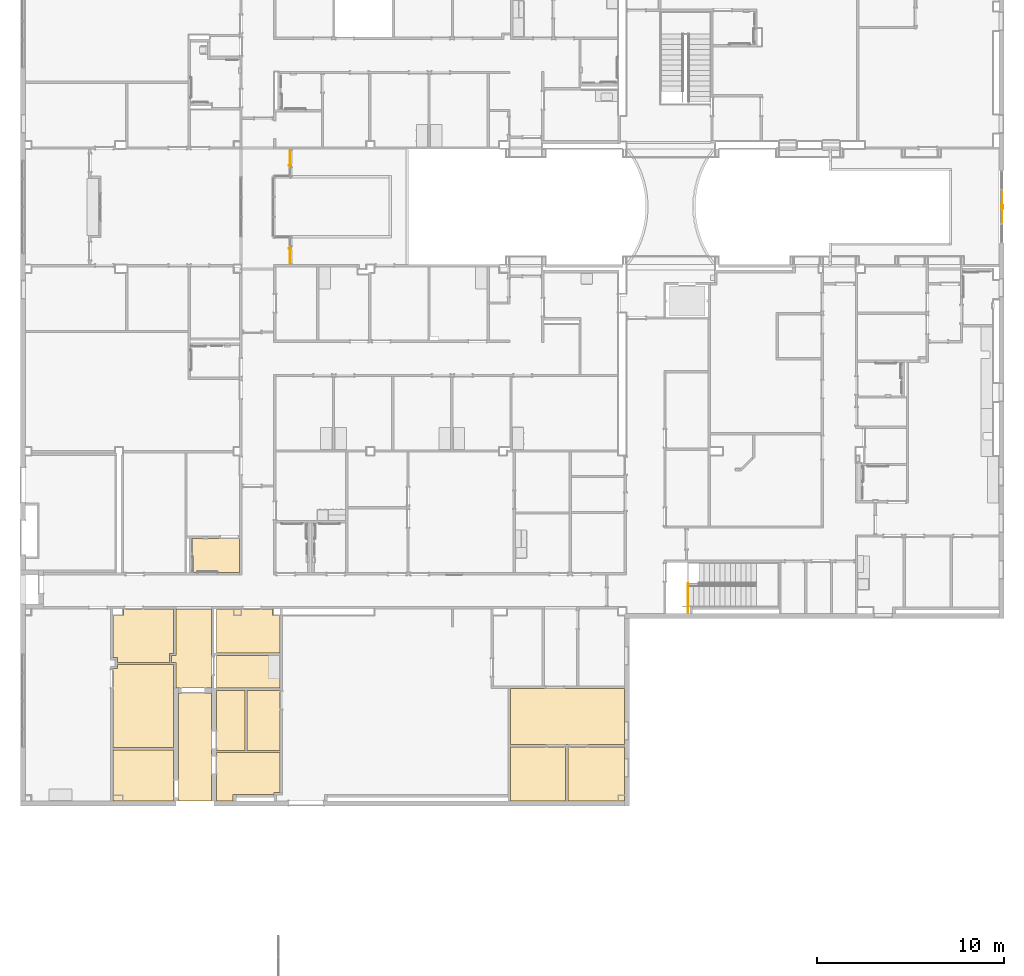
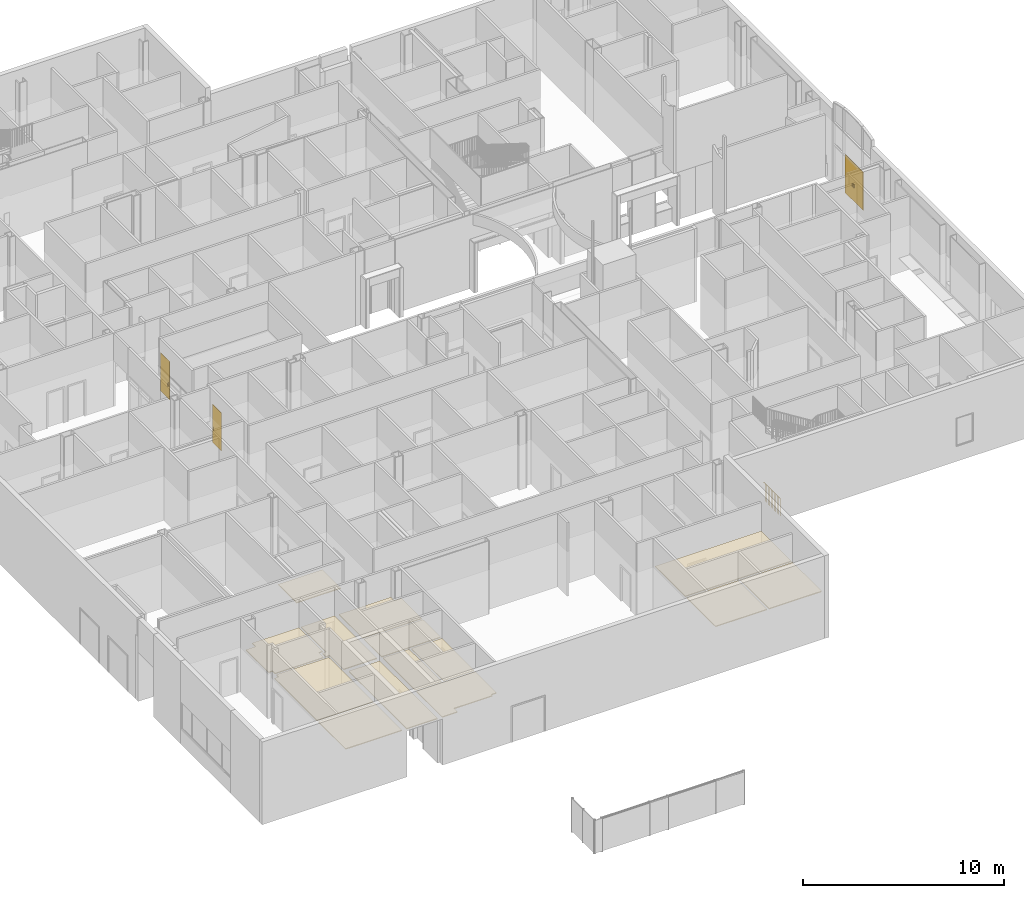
# One storey, part 48 of 87: 14 coverings, 6 doors, 1 railing, 3 elements without a shape of their own.
"""IFC2X3 building model written with IfcOpenShell, lengths in metres."""

import ifcopenshell
import ifcopenshell.guid

model = None  # the IFC model being written
_history = None  # IfcOwnerHistory: only IFC2X3 demands one
_inside = {}  # id of a spatial element -> (the spatial element, [elements in it])
_under = {}  # id of a project, library or spatial element -> (it, [spatial elements below it])
_declared = {}  # id of a project -> (the project, [libraries it declares])
_typed = {}  # id of a type object -> (the type object, [elements of that type])
_made_of = {}  # id of a material, layer set ... -> (it, [elements and type objects made of it])


def new_model(schema):
    """Start an empty IFC model of exactly this schema.

    Asked for "IFC4X3", IfcOpenShell would pick the latest addendum, in which some entities
    have other attributes; the version numbers below select the first issue.
    IFC2X3 requires an IfcOwnerHistory on every rooted entity: one is made here for all.
    """
    global model, _history
    if schema == "IFC4X3":
        model = ifcopenshell.file(schema_version=(4, 3, 0, 0))
    else:
        model = ifcopenshell.file(schema=schema)
    _inside.clear()
    _under.clear()
    _declared.clear()
    _typed.clear()
    _made_of.clear()
    _history = None
    if model.schema == "IFC2X3":
        org = make("IfcOrganization", Name="unknown")
        user = make(
            "IfcPersonAndOrganization",
            ThePerson=make("IfcPerson", FamilyName="unknown"),
            TheOrganization=org,
        )
        app = make(
            "IfcApplication",
            ApplicationDeveloper=org,
            Version="unknown",
            ApplicationFullName="unknown",
            ApplicationIdentifier="unknown",
        )
        _history = make(
            "IfcOwnerHistory",
            OwningUser=user,
            OwningApplication=app,
            ChangeAction="ADDED",
            CreationDate=0,
        )
    return model


def make(cls, **values):
    """One entity of the class cls with the attributes given. An attribute that is None is left unset."""
    return model.create_entity(
        cls, **{name: value for name, value in values.items() if value is not None}
    )


def entity(cls, *values):
    """Any entity or typed value of the class cls, its attributes in the order of the schema. None: left unset."""
    e = model.create_entity(cls)
    for i, value in enumerate(values):
        if value is not None:
            e[i] = value
    return e


def rooted(cls, **values):
    """An entity with a GlobalId (a new one), such as an element, a storey or a relation."""
    return make(cls, GlobalId=ifcopenshell.guid.new(), OwnerHistory=_history, **values)


def si_unit(unit_type, name, prefix=None):
    """IfcSIUnit, for example si_unit("LENGTHUNIT", "METRE", prefix="MILLI")."""
    return make("IfcSIUnit", UnitType=unit_type, Prefix=prefix, Name=name)


def converted_unit(unit_type, name, factor, base, dimensions=None, offset=None):
    """IfcConversionBasedUnit, such as the inch: factor (a typed value) times the base unit."""
    return make(
        "IfcConversionBasedUnit"
        if offset is None
        else "IfcConversionBasedUnitWithOffset",
        ConversionOffset=offset,
        Dimensions=None
        if dimensions is None
        else entity("IfcDimensionalExponents", *dimensions),
        UnitType=unit_type,
        Name=name,
        ConversionFactor=make(
            "IfcMeasureWithUnit", ValueComponent=factor, UnitComponent=base
        ),
    )


def assignment(units):
    """IfcUnitAssignment: the units of a project."""
    return None if units is None else make("IfcUnitAssignment", Units=units)


def point(xyz):
    """IfcCartesianPoint."""
    return None if xyz is None else make("IfcCartesianPoint", Coordinates=xyz)


def direction(xyz):
    """IfcDirection."""
    return None if xyz is None else make("IfcDirection", DirectionRatios=xyz)


def frame(location, z_axis=None, x_axis=None):
    """IfcAxis2Placement3D, a coordinate frame: its origin and axes. An axis left out is left unset."""
    return make(
        "IfcAxis2Placement3D",
        Location=point(location),
        Axis=direction(z_axis),
        RefDirection=direction(x_axis),
    )


def frame_2d(location, x_axis=None):
    """IfcAxis2Placement2D, a coordinate frame in the plane: its origin and x axis."""
    return make(
        "IfcAxis2Placement2D", Location=point(location), RefDirection=direction(x_axis)
    )


def origin():
    """The frame at (0, 0, 0) with its axes left unset."""
    return frame((0.0, 0.0, 0.0))


def origin_2d_with_axis():
    """The frame at (0, 0) in the plane with the x axis (1, 0) written out."""
    return frame_2d((0.0, 0.0), x_axis=(1.0, 0.0))


def place(relative_to, where):
    """IfcLocalPlacement: puts the frame where relative to a parent placement (None: the world)."""
    return make(
        "IfcLocalPlacement", PlacementRelTo=relative_to, RelativePlacement=where
    )


def context(
    kind, dimensions, precision=None, world=None, true_north=None, identifier=None
):
    """IfcGeometricRepresentationContext, for example the 3D "Model" context."""
    return make(
        "IfcGeometricRepresentationContext",
        ContextIdentifier=identifier,
        ContextType=kind,
        CoordinateSpaceDimension=dimensions,
        Precision=precision,
        WorldCoordinateSystem=world,
        TrueNorth=true_north,
    )


def project(units=None, contexts=None):
    """IfcProject with its units and contexts."""
    return rooted(
        "IfcProject",
        Name="project",
        RepresentationContexts=contexts,
        UnitsInContext=assignment(units),
    )


def spatial(cls, under=None, at=None, **own):
    """A site, building, storey or space (cls), placed at a placement, below another one or the project."""
    s = rooted(cls, ObjectPlacement=at, **own)
    if under is not None:
        _under.setdefault(under.id(), (under, []))[1].append(s)
    return s


def profile(cls, at=None, kind="AREA", **sizes):
    """A parametric profile (cls). Its sizes go by their IFC names, for example OverallWidth=200.0."""
    return make(cls, ProfileType=kind, Position=at, **sizes)


def rectangle(**sizes):
    """IfcRectangleProfileDef."""
    return profile("IfcRectangleProfileDef", **sizes)


def circle(**sizes):
    """IfcCircleProfileDef."""
    return profile("IfcCircleProfileDef", **sizes)


def extrude(swept, where, along, depth):
    """IfcExtrudedAreaSolid: the profile swept, set in the frame where, extruded along a direction by depth."""
    return make(
        "IfcExtrudedAreaSolid",
        SweptArea=swept,
        Position=where,
        ExtrudedDirection=direction(along),
        Depth=depth,
    )


def faces_of(points, faces, orient=None, outer=None):
    """IfcFace entities. A face is a list of loops; a loop is a list of indices into points, from 0.

    orient and outer hold one flag for each loop. By default every Orientation is true, the
    first loop of a face is its IfcFaceOuterBound and the others are IfcFaceBound.
    """
    made = []
    for i, loops in enumerate(faces):
        bounds = []
        for j, loop in enumerate(loops):
            is_outer = j == 0 if outer is None else outer[i][j]
            bounds.append(
                make(
                    "IfcFaceOuterBound" if is_outer else "IfcFaceBound",
                    Bound=make("IfcPolyLoop", Polygon=[points[k] for k in loop]),
                    Orientation=True if orient is None else orient[i][j],
                )
            )
        made.append(make("IfcFace", Bounds=bounds))
    return made


def face_set(faces, orient=None, outer=None):
    """The faces of one IfcConnectedFaceSet. surface_model builds it on its shared points."""
    return ("IfcConnectedFaceSet", faces, orient, outer)


def surface_model(cls, points, shells):
    """IfcFaceBasedSurfaceModel or IfcShellBasedSurfaceModel (cls): surfaces that need not close."""
    shared = [point(p) for p in points]
    made = [make(c, CfsFaces=faces_of(shared, fs, o, b)) for c, fs, o, b in shells]
    if cls == "IfcFaceBasedSurfaceModel":
        return make(cls, FbsmFaces=made)
    return make(cls, SbsmBoundary=made)


def shape(context_of_items, identifier, shape_type, items):
    """IfcShapeRepresentation: the items that make up one representation, for example the "Body"."""
    return make(
        "IfcShapeRepresentation",
        ContextOfItems=context_of_items,
        RepresentationIdentifier=identifier,
        RepresentationType=shape_type,
        Items=items,
    )


def source(mapping_origin, context_of_items, identifier, shape_type, items):
    """IfcRepresentationMap: a shape defined once, which mapped items show again and again."""
    return make(
        "IfcRepresentationMap",
        MappingOrigin=mapping_origin,
        MappedRepresentation=shape(context_of_items, identifier, shape_type, items),
    )


def transform(
    local_origin,
    x_axis=None,
    y_axis=None,
    z_axis=None,
    scale=None,
    scale2=None,
    scale3=None,
    uniform=True,
):
    """IfcCartesianTransformationOperator3D, or its non-uniform kind. x_axis, y_axis, z_axis: its Axis1, 2, 3."""
    if uniform:
        return make(
            "IfcCartesianTransformationOperator3D",
            Axis1=direction(x_axis),
            Axis2=direction(y_axis),
            LocalOrigin=point(local_origin),
            Scale=scale,
            Axis3=direction(z_axis),
        )
    return make(
        "IfcCartesianTransformationOperator3DnonUniform",
        Axis1=direction(x_axis),
        Axis2=direction(y_axis),
        LocalOrigin=point(local_origin),
        Scale=scale,
        Axis3=direction(z_axis),
        Scale2=scale2,
        Scale3=scale3,
    )


def mapped(mapping_source, mapping_target):
    """IfcMappedItem: shows the shape of a source again, moved by a transform."""
    return make(
        "IfcMappedItem", MappingSource=mapping_source, MappingTarget=mapping_target
    )


def material(Name=None, Category=None):
    """IfcMaterial."""
    return make("IfcMaterial", Name=Name, Category=Category)


def layer(
    of_material, thickness, ventilated=None, Name=None, Category=None, Priority=None
):
    """IfcMaterialLayer: one layer of a wall or slab, of a material (None: an air gap)."""
    return make(
        "IfcMaterialLayer",
        Material=of_material,
        LayerThickness=thickness,
        IsVentilated=ventilated,
        Name=Name,
        Category=Category,
        Priority=Priority,
    )


def layer_set(layers, Name=None):
    """IfcMaterialLayerSet."""
    return make("IfcMaterialLayerSet", MaterialLayers=layers, LayerSetName=Name)


def layer_usage(for_layer_set, set_direction, sense, offset, extent=None):
    """IfcMaterialLayerSetUsage: how a layer set lies in its element."""
    return make(
        "IfcMaterialLayerSetUsage",
        ForLayerSet=for_layer_set,
        LayerSetDirection=set_direction,
        DirectionSense=sense,
        OffsetFromReferenceLine=offset,
        ReferenceExtent=extent,
    )


def made_of(thing, what):
    """Note that an element or type object is made of a material, layer set ...; save() writes the relation."""
    if what is not None:
        _made_of.setdefault(what.id(), (what, []))[1].append(thing)
    return thing


def type_object(cls, material=None, **own):
    """A type object (cls), such as IfcWallType, which elements share."""
    return made_of(rooted(cls, **own), material)


def type_shapes(of_type, sources):
    """Give a type object the sources (RepresentationMaps) that its elements show as mapped items."""
    of_type.RepresentationMaps = sources


def element(
    cls,
    number,
    at=None,
    inside=None,
    cuts=None,
    type_object=None,
    material=None,
    context=None,
    identifier="Body",
    shape_type=None,
    held_by="IfcProductDefinitionShape",
    body=None,
    shapes=None,
    **own,
):
    """One element of the class cls, such as IfcWall. Its Tag is "e" and its number.

    at: its placement. inside: the storey or other place that contains it. cuts: it is an
    opening in that element (IfcRelVoidsElement). A single representation is given by context,
    identifier, shape_type and body (its items); several are given by shapes. held_by: the class
    of the entity that holds the representations. save() writes the other relations.
    """
    e = rooted(cls, Tag="e%d" % number, ObjectPlacement=at, **own)
    if body is not None:
        shapes = [shape(context, identifier, shape_type, body)]
    if shapes is not None:
        e.Representation = make(held_by, Representations=shapes)
    if inside is not None:
        _inside.setdefault(inside.id(), (inside, []))[1].append(e)
    if cuts is not None:
        rooted(
            "IfcRelVoidsElement", RelatingBuildingElement=cuts, RelatedOpeningElement=e
        )
    if type_object is not None:
        _typed.setdefault(type_object.id(), (type_object, []))[1].append(e)
    return made_of(e, material)


def aggregate(whole, parts):
    """IfcRelAggregates: a whole, such as a stair, and the parts it consists of."""
    return rooted("IfcRelAggregates", RelatingObject=whole, RelatedObjects=parts)


def save(model, path):
    """Write the relations noted so far, then the file.

    IfcRelAggregates (storeys below a building ...), IfcRelContainedInSpatialStructure (elements
    in a storey), IfcRelDefinesByType, IfcRelAssociatesMaterial and IfcRelDeclares: one each for
    every whole, place, type object, material and project.
    """
    for whole, parts in _under.values():
        aggregate(whole, parts)
    for where, things in _inside.values():
        rooted(
            "IfcRelContainedInSpatialStructure",
            RelatedElements=things,
            RelatingStructure=where,
        )
    for kind, things in _typed.values():
        rooted("IfcRelDefinesByType", RelatedObjects=things, RelatingType=kind)
    for what, things in _made_of.values():
        rooted("IfcRelAssociatesMaterial", RelatedObjects=things, RelatingMaterial=what)
    for by, libraries in _declared.values():
        rooted("IfcRelDeclares", RelatingContext=by, RelatedDefinitions=libraries)
    model.write(path)


model = new_model("IFC2X3")

# Units and contexts
model_context = context("Model", 3, precision=1e-09, world=origin())
plan_context = context("Plan", 3, precision=1e-09, world=origin())
ifc_project = project(units=[si_unit("LENGTHUNIT", "METRE"), si_unit("AREAUNIT", "SQUARE_METRE"), si_unit("VOLUMEUNIT", "CUBIC_METRE"), converted_unit("PLANEANGLEUNIT", "DEGREE", entity("IfcRatioMeasure", 0.01745329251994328), si_unit("PLANEANGLEUNIT", "RADIAN"), dimensions=[0, 0, 0, 0, 0, 0, 0]), si_unit("TIMEUNIT", "SECOND")], contexts=[model_context, plan_context])

# Site, building, storey
site_placement = place(None, origin())
site = spatial("IfcSite", under=ifc_project, at=site_placement, Name="Default", CompositionType="ELEMENT")
building_placement = place(site_placement, origin())
building = spatial("IfcBuilding", under=site, at=building_placement, CompositionType="ELEMENT")
storey_placement = place(building_placement, origin())
storey = spatial("IfcBuildingStorey", under=building, at=storey_placement, Name="First Floor", CompositionType="ELEMENT", Elevation=-3.531500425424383e-13)

# Curtain wall, door
curtain_wall_1_placement = place(storey_placement, origin())
curtain_wall_1 = element("IfcCurtainWall", 1, at=curtain_wall_1_placement, inside=storey, Name="Curtain Wall:Storefront", ObjectType="Curtain Wall:Storefront")
door_style_1 = type_object("IfcDoorStyle", Name="M_Curtain Wall Dbl Glass", ConstructionType="NOTDEFINED", OperationType="DOUBLE_DOOR_SINGLE_SWING", ParameterTakesPrecedence=False, Sizeable=False)
shared_shape_1 = source(origin(), model_context, "Body", "SurfaceModel", [
    surface_model("IfcFaceBasedSurfaceModel", [(-0.001587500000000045, 0.03094999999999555, 2.325), (-0.9000000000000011, 0.03094999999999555, 2.325), (-0.9000000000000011, 0.03094999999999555, 0.0), (-0.001587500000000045, 0.03094999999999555, 0.0), (-0.001587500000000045, 0.04999999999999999, 2.325), (-0.9000000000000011, 0.04999999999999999, 2.325), (-0.9000000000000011, 0.04999999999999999, 0.0), (-0.001587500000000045, 0.04999999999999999, 0.0), (0.00158749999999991, 0.03094999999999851, 2.325), (0.001587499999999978, 0.03094999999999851, 0.0), (0.9000000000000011, 0.03094999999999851, 0.0), (0.9000000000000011, 0.03094999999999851, 2.325), (0.00158749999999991, 0.04999999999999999, 2.325), (0.00158749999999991, 0.04999999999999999, 0.0), (0.9000000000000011, 0.04999999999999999, 0.0), (0.9000000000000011, 0.04999999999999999, 2.325), (-0.05080000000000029, 0.1007999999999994, 1.066799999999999), (-0.05080000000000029, 0.04999999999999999, 1.066799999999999), (-0.05715000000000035, 0.04999999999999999, 1.066799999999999), (-0.05715000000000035, 0.09444999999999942, 1.066799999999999), (-0.09524999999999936, 0.09444999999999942, 1.066799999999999), (-0.09524999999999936, 0.1007999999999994, 1.066799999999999), (0.05080000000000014, 0.1008000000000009, 1.066799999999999), (0.0952499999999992, 0.1008000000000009, 1.066799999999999), (0.0952499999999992, 0.09445000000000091, 1.066799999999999), (0.05715000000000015, 0.09445000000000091, 1.066799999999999), (0.05715000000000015, 0.04999999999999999, 1.066799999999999), (0.05080000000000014, 0.04999999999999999, 1.066799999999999), (-0.05080000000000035, -0.01985000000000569, 1.066799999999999), (-0.09524999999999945, -0.01985000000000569, 1.066799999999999), (-0.09524999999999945, -0.01350000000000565, 1.066799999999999), (-0.05715000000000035, -0.01350000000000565, 1.066799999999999), (-0.05715000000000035, 0.03094999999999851, 1.066799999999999), (-0.05080000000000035, 0.03094999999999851, 1.066799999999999), (0.05079999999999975, -0.01985000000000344, 1.066799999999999), (0.05079999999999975, 0.03094999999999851, 1.066799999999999), (0.05714999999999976, 0.03094999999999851, 1.066799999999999), (0.05714999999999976, -0.0135000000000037, 1.066799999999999), (0.09524999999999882, -0.0135000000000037, 1.066799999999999), (0.09524999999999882, -0.01985000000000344, 1.066799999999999), (-0.05080000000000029, 0.1007999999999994, 0.8635999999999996), (-0.05080000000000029, 0.04999999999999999, 0.8635999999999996), (-0.05715000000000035, 0.04999999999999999, 0.8635999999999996), (-0.05715000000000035, 0.09444999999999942, 0.8635999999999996), (-0.09524999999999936, 0.09444999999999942, 0.8635999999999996), (-0.09524999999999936, 0.1007999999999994, 0.8635999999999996), (0.05080000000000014, 0.1008000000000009, 0.8635999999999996), (0.0952499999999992, 0.1008000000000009, 0.8635999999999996), (0.0952499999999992, 0.09445000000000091, 0.8635999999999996), (0.05715000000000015, 0.09445000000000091, 0.8635999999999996), (0.05715000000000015, 0.04999999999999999, 0.8635999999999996), (0.05080000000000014, 0.04999999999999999, 0.8635999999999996), (-0.05080000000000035, -0.01985000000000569, 0.8635999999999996), (-0.09524999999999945, -0.01985000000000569, 0.8635999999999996), (-0.09524999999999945, -0.01350000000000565, 0.8635999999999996), (-0.05715000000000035, -0.01350000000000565, 0.8635999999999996), (-0.05715000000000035, 0.03094999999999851, 0.8635999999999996), (-0.05080000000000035, 0.03094999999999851, 0.8635999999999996), (0.05079999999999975, -0.01985000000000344, 0.8635999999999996), (0.05079999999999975, 0.03094999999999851, 0.8635999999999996), (0.05714999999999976, 0.03094999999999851, 0.8635999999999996), (0.05714999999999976, -0.0135000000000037, 0.8635999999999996), (0.09524999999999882, -0.0135000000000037, 0.8635999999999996), (0.09524999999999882, -0.01985000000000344, 0.8635999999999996)], [face_set([[[0, 1, 2, 3]], [[4, 5, 6, 7]], [[1, 5, 4, 0]], [[2, 6, 5, 1]], [[3, 2, 6, 7]], [[0, 3, 7, 4]]]), face_set([[[8, 9, 10, 11]], [[12, 13, 14, 15]], [[9, 8, 12, 13]], [[10, 9, 13, 14]], [[11, 15, 14, 10]], [[8, 12, 15, 11]]]), face_set([[[16, 17, 18, 19, 20, 21]], [[22, 23, 24, 25, 26, 27]], [[28, 29, 30, 31, 32, 33]], [[34, 35, 36, 37, 38, 39]], [[40, 41, 42, 43, 44, 45]], [[46, 47, 48, 49, 50, 51]], [[52, 53, 54, 55, 56, 57]], [[58, 59, 60, 61, 62, 63]], [[21, 45, 40, 16]], [[20, 21, 45, 44]], [[19, 20, 44, 43]], [[18, 19, 43, 42]], [[17, 18, 42, 41]], [[16, 40, 41, 17]], [[27, 51, 46, 22]], [[26, 27, 51, 50]], [[25, 26, 50, 49]], [[24, 25, 49, 48]], [[23, 24, 48, 47]], [[22, 46, 47, 23]], [[33, 57, 52, 28]], [[32, 56, 57, 33]], [[31, 32, 56, 55]], [[30, 54, 55, 31]], [[29, 30, 54, 53]], [[28, 29, 53, 52]], [[39, 34, 58, 63]], [[38, 39, 63, 62]], [[37, 61, 62, 38]], [[36, 37, 61, 60]], [[35, 59, 60, 36]], [[34, 58, 59, 35]]])]),
])
type_shapes(door_style_1, [shared_shape_1])
door_1_placement = place(storey_placement, frame((0.2464999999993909, 31.69499999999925, 0.05000000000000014), z_axis=(0.0, 0.0, 1.0), x_axis=(0.0, -1.0, 0.0)))
door_1 = element("IfcDoor", 2, at=door_1_placement, type_object=door_style_1, Name="M_Curtain Wall Dbl Glass:M_Curtain Wall Dbl Glass:M_Curtain Wall Dbl Glass", ObjectType="M_Curtain Wall Dbl Glass", OverallHeight=2.326855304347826, OverallWidth=1.800000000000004, context=model_context, shape_type="MappedRepresentation", body=[
    mapped(shared_shape_1, transform((0.0, 0.0, 0.0), scale=1.0)),
])
aggregate(curtain_wall_1, [door_1])

# Door
door_2_placement = place(storey_placement, frame((0.2464999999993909, 31.69499999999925, 0.05000000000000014), z_axis=(0.0, 0.0, 1.0), x_axis=(0.0, -1.0, 0.0)))
element("IfcDoor", 3, at=door_2_placement, inside=storey, type_object=door_style_1, Name="M_Curtain Wall Dbl Glass:M_Curtain Wall Dbl Glass:M_Curtain Wall Dbl Glass", ObjectType="M_Curtain Wall Dbl Glass", OverallHeight=2.326855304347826, OverallWidth=1.800000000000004, context=model_context, shape_type="MappedRepresentation", body=[
    mapped(shared_shape_1, transform((0.0, 0.0, 0.0), scale=1.0)),
])

# Curtain wall, door
curtain_wall_2_placement = place(storey_placement, origin())
curtain_wall_2 = element("IfcCurtainWall", 4, at=curtain_wall_2_placement, inside=storey, Name="Curtain Wall:Storefront - Interior", ObjectType="Curtain Wall:Storefront - Interior")
door_style_2 = type_object("IfcDoorStyle", Name="M_Curtain Wall Sgl Glass", ConstructionType="NOTDEFINED", OperationType="SINGLE_SWING_LEFT", ParameterTakesPrecedence=False, Sizeable=False)
shared_shape_2 = source(origin(), model_context, "Body", "SweptSolid", [
    extrude(rectangle(XDim=0.02540000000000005, YDim=0.0508, at=origin_2d_with_axis()), frame((-0.361600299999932, -0.01290000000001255, 0.7619999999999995), z_axis=(0.0, 0.0, 1.0), x_axis=(-1.0, 0.0, 0.0)), (0.0, 0.0, 1.0), 0.2286000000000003),
    extrude(rectangle(XDim=0.02539999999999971, YDim=0.0508, at=origin_2d_with_axis()), frame((-0.3616002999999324, -0.07640000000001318, 0.762)), (0.0, 0.0, 1.0), 0.2286),
    extrude(rectangle(XDim=0.01270000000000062, YDim=0.9010005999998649, at=origin_2d_with_axis()), frame((0.0, -0.04465000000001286, 0.0), z_axis=(0.0, 0.0, 1.0), x_axis=(0.0, 1.0, 0.0)), (0.0, 0.0, 1.0), 2.324999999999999),
])
type_shapes(door_style_2, [shared_shape_2])
door_3_placement = place(storey_placement, frame((-37.80500000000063, 29.11050029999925, 0.05), z_axis=(0.0, 0.0, 1.0), x_axis=(0.0, -1.0, 0.0)))
door_3 = element("IfcDoor", 5, at=door_3_placement, type_object=door_style_2, Name="M_Curtain Wall Sgl Glass:M_Curtain Wall Sgl Glass:M_Curtain Wall Sgl Glass", ObjectType="M_Curtain Wall Sgl Glass", OverallHeight=2.324999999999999, OverallWidth=0.9010005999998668, context=model_context, shape_type="MappedRepresentation", body=[
    mapped(shared_shape_2, transform((0.0, 0.0, 0.0), scale=1.0)),
])
aggregate(curtain_wall_2, [door_3])

# Door
door_4_placement = place(storey_placement, frame((-37.80500000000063, 29.11050029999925, 0.05), z_axis=(0.0, 0.0, 1.0), x_axis=(0.0, -1.0, 0.0)))
element("IfcDoor", 6, at=door_4_placement, inside=storey, type_object=door_style_2, Name="M_Curtain Wall Sgl Glass:M_Curtain Wall Sgl Glass:M_Curtain Wall Sgl Glass", ObjectType="M_Curtain Wall Sgl Glass", OverallHeight=2.324999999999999, OverallWidth=0.9010005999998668, context=model_context, shape_type="MappedRepresentation", body=[
    mapped(shared_shape_2, transform((0.0, 0.0, 0.0), scale=1.0)),
])

# Curtain wall, door
curtain_wall_3_placement = place(storey_placement, origin())
curtain_wall_3 = element("IfcCurtainWall", 7, at=curtain_wall_3_placement, inside=storey, Name="Curtain Wall:Storefront - Interior", ObjectType="Curtain Wall:Storefront - Interior")
door_style_3 = type_object("IfcDoorStyle", Name="M_Curtain Wall Sgl Glass", ConstructionType="NOTDEFINED", OperationType="SINGLE_SWING_RIGHT", ParameterTakesPrecedence=False, Sizeable=False)
shared_shape_3 = source(origin(), model_context, "Body", "SweptSolid", [
    extrude(rectangle(XDim=0.0508, YDim=0.02540000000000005, at=origin_2d_with_axis()), frame((-0.3608743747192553, 0.01290000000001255, 0.7619999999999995), z_axis=(0.0, 0.0, 1.0), x_axis=(0.0, 1.0, 0.0)), (0.0, 0.0, 1.0), 0.2286000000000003),
    extrude(rectangle(XDim=0.0508, YDim=0.02539999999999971, at=origin_2d_with_axis()), frame((-0.3608743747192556, 0.07640000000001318, 0.762), z_axis=(0.0, 0.0, 1.0), x_axis=(0.0, -1.0, 0.0)), (0.0, 0.0, 1.0), 0.2286),
    extrude(rectangle(XDim=0.8995487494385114, YDim=0.01270000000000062, at=origin_2d_with_axis()), frame((0.0, 0.04465000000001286, 0.0), z_axis=(0.0, 0.0, 1.0), x_axis=(-1.0, 0.0, 0.0)), (0.0, 0.0, 1.0), 2.325),
])
type_shapes(door_style_3, [shared_shape_3])
door_5_placement = place(storey_placement, frame((-37.80500000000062, 34.27977377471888, 0.05), z_axis=(0.0, 0.0, 1.0), x_axis=(0.0, 1.0, 0.0)))
door_5 = element("IfcDoor", 8, at=door_5_placement, type_object=door_style_3, Name="M_Curtain Wall Sgl Glass:M_Curtain Wall Sgl Glass:M_Curtain Wall Sgl Glass", ObjectType="M_Curtain Wall Sgl Glass", OverallHeight=2.325, OverallWidth=0.8995487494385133, context=model_context, shape_type="MappedRepresentation", body=[
    mapped(shared_shape_3, transform((0.0, 0.0, 0.0), scale=1.0)),
])
aggregate(curtain_wall_3, [door_5])

# Door
door_6_placement = place(storey_placement, frame((-37.80500000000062, 34.27977377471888, 0.05), z_axis=(0.0, 0.0, 1.0), x_axis=(0.0, 1.0, 0.0)))
element("IfcDoor", 9, at=door_6_placement, inside=storey, type_object=door_style_3, Name="M_Curtain Wall Sgl Glass:M_Curtain Wall Sgl Glass:M_Curtain Wall Sgl Glass", ObjectType="M_Curtain Wall Sgl Glass", OverallHeight=2.325, OverallWidth=0.8995487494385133, context=model_context, shape_type="MappedRepresentation", body=[
    mapped(shared_shape_3, transform((0.0, 0.0, 0.0), scale=1.0)),
])

# Coverings
ifc_material_1 = material(Name="Default")
ifc_layer_1 = layer(ifc_material_1, 0.03599999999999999)
ifc_material_2 = material(Name="Ceiling Tile 600 x 600")
ifc_layer_2 = layer(ifc_material_2, 0.016)
ifc_layer_set = layer_set([ifc_layer_1, ifc_layer_2], Name="Compound Ceiling:ACT 600 x 600mm Grid")
ifc_layer_usage_1 = layer_usage(ifc_layer_set, "AXIS3", "NEGATIVE", 0.0)
covering_1_placement = place(storey_placement, origin())
element("IfcCovering", 10, at=covering_1_placement, inside=storey, material=ifc_layer_usage_1, Name="Compound Ceiling:ACT 600 x 600mm Grid", ObjectType="Compound Ceiling:ACT 600 x 600mm Grid", PredefinedType="CEILING", context=model_context, shape_type="SurfaceModel", body=[
    surface_model("IfcFaceBasedSurfaceModel", [(-46.77000000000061, 9.809999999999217, 2.732), (-46.77000000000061, 10.16299999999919, 2.732), (-44.08400000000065, 10.16299999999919, 2.732), (-44.08400000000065, 7.783999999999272, 2.732), (-44.30900012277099, 7.783999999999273, 2.732), (-44.30900012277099, 7.30999999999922, 2.732), (-47.09600000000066, 7.309999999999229, 2.732), (-47.09600000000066, 7.563999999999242, 2.732), (-47.32600000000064, 7.563999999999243, 2.732), (-47.32600000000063, 9.809999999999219, 2.732), (-46.77000000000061, 9.809999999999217, 2.68), (-46.77000000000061, 10.16299999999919, 2.68), (-44.08400000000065, 10.16299999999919, 2.68), (-44.08400000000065, 7.783999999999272, 2.68), (-44.30900012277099, 7.783999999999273, 2.68), (-44.30900012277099, 7.30999999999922, 2.68), (-47.09600000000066, 7.309999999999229, 2.68), (-47.09600000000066, 7.563999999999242, 2.68), (-47.32600000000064, 7.563999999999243, 2.68), (-47.32600000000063, 9.809999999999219, 2.68)], [face_set([[[0, 1, 2, 3, 4, 5, 6, 7, 8, 9]], [[10, 11, 12, 13, 14, 15, 16, 17, 18, 19]], [[9, 19, 10, 0]], [[8, 18, 19, 9]], [[7, 8, 18, 17]], [[6, 16, 17, 7]], [[5, 6, 16, 15]], [[4, 5, 15, 14]], [[3, 4, 14, 13]], [[2, 3, 13, 12]], [[1, 11, 12, 2]], [[0, 10, 11, 1]]])]),
])
ifc_layer_usage_2 = layer_usage(ifc_layer_set, "AXIS3", "NEGATIVE", 0.0)
covering_2_placement = place(storey_placement, origin())
element("IfcCovering", 11, at=covering_2_placement, inside=storey, material=ifc_layer_usage_2, Name="Compound Ceiling:ACT 600 x 600mm Grid", ObjectType="Compound Ceiling:ACT 600 x 600mm Grid", PredefinedType="CEILING", context=model_context, shape_type="SurfaceModel", body=[
    surface_model("IfcFaceBasedSurfaceModel", [(-44.08400000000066, 2.739999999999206, 2.732), (-47.32600000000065, 2.739999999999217, 2.732), (-47.32600000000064, 6.965999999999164, 2.732), (-47.09600000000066, 6.965999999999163, 2.732), (-47.09600000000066, 7.185999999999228, 2.732), (-44.24700012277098, 7.18599999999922, 2.732), (-44.08400000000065, 7.185999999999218, 2.732), (-44.08400000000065, 5.795999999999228, 2.732), (-44.08400000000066, 2.739999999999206, 2.68), (-47.32600000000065, 2.739999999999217, 2.68), (-47.32600000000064, 6.965999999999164, 2.68), (-47.09600000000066, 6.965999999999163, 2.68), (-47.09600000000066, 7.185999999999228, 2.68), (-44.24700012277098, 7.18599999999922, 2.68), (-44.08400000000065, 7.185999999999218, 2.68), (-44.08400000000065, 5.795999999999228, 2.68)], [face_set([[[0, 1, 2, 3, 4, 5, 6, 7]], [[8, 9, 10, 11, 12, 13, 14, 15]], [[7, 0, 8, 15]], [[6, 7, 15, 14]], [[5, 13, 14, 6]], [[4, 12, 13, 5]], [[3, 11, 12, 4]], [[2, 10, 11, 3]], [[1, 9, 10, 2]], [[0, 1, 9, 8]]])]),
])
ifc_layer_usage_3 = layer_usage(ifc_layer_set, "AXIS3", "NEGATIVE", 0.0)
covering_3_placement = place(storey_placement, origin())
element("IfcCovering", 12, at=covering_3_placement, inside=storey, material=ifc_layer_usage_3, Name="Compound Ceiling:ACT 600 x 600mm Grid", ObjectType="Compound Ceiling:ACT 600 x 600mm Grid", PredefinedType="CEILING", context=model_context, shape_type="SurfaceModel", body=[
    surface_model("IfcFaceBasedSurfaceModel", [(-44.08400000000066, -0.1130000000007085, 2.732), (-47.32600000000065, -0.1130000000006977, 2.732), (-47.32600000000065, 2.615999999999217, 2.732), (-44.08400000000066, 2.615999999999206, 2.732), (-44.08400000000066, -0.1130000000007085, 2.68), (-47.32600000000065, -0.1130000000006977, 2.68), (-47.32600000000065, 2.615999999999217, 2.68), (-44.08400000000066, 2.615999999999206, 2.68)], [face_set([[[0, 1, 2, 3]], [[4, 5, 6, 7]], [[3, 0, 4, 7]], [[2, 6, 7, 3]], [[1, 5, 6, 2]], [[0, 1, 5, 4]]])]),
])
ifc_layer_usage_4 = layer_usage(ifc_layer_set, "AXIS3", "NEGATIVE", 0.0)
covering_4_placement = place(storey_placement, origin())
element("IfcCovering", 13, at=covering_4_placement, inside=storey, material=ifc_layer_usage_4, Name="Compound Ceiling:ACT 600 x 600mm Grid", ObjectType="Compound Ceiling:ACT 600 x 600mm Grid", PredefinedType="CEILING", context=model_context, shape_type="SurfaceModel", body=[
    surface_model("IfcFaceBasedSurfaceModel", [(-42.04000000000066, 5.652999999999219, 2.732), (-42.04000000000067, -0.113000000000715, 2.732), (-43.81700000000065, -0.1130000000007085, 2.732), (-43.81700000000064, 5.652999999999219, 2.732), (-42.04000000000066, 5.652999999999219, 2.68), (-42.04000000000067, -0.113000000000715, 2.68), (-43.81700000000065, -0.1130000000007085, 2.68), (-43.81700000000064, 5.652999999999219, 2.68)], [face_set([[[0, 1, 2, 3]], [[4, 5, 6, 7]], [[3, 7, 4, 0]], [[2, 6, 7, 3]], [[1, 2, 6, 5]], [[0, 1, 5, 4]]])]),
])
ifc_layer_usage_5 = layer_usage(ifc_layer_set, "AXIS3", "NEGATIVE", 0.0)
covering_5_placement = place(storey_placement, origin())
element("IfcCovering", 14, at=covering_5_placement, inside=storey, material=ifc_layer_usage_5, Name="Compound Ceiling:ACT 600 x 600mm Grid", ObjectType="Compound Ceiling:ACT 600 x 600mm Grid", PredefinedType="CEILING", context=model_context, shape_type="SurfaceModel", body=[
    surface_model("IfcFaceBasedSurfaceModel", [(-41.77300000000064, 10.16299999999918, 2.732), (-38.78540000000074, 10.16299999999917, 2.732), (-38.78540000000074, 9.809999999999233, 2.732), (-38.3793992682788, 9.809999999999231, 2.732), (-38.3793992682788, 7.798999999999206, 2.732), (-41.77300000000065, 7.798999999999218, 2.732), (-41.77300000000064, 10.16299999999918, 2.68), (-38.78540000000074, 10.16299999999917, 2.68), (-38.78540000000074, 9.809999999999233, 2.68), (-38.3793992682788, 9.809999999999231, 2.68), (-38.3793992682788, 7.798999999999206, 2.68), (-41.77300000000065, 7.798999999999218, 2.68)], [face_set([[[0, 1, 2, 3, 4, 5]], [[6, 7, 8, 9, 10, 11]], [[5, 11, 6, 0]], [[4, 5, 11, 10]], [[3, 4, 10, 9]], [[2, 8, 9, 3]], [[1, 2, 8, 7]], [[0, 6, 7, 1]]])]),
])
ifc_layer_usage_6 = layer_usage(ifc_layer_set, "AXIS3", "NEGATIVE", 0.0)
covering_6_placement = place(storey_placement, origin())
element("IfcCovering", 15, at=covering_6_placement, inside=storey, material=ifc_layer_usage_6, Name="Compound Ceiling:ACT 600 x 600mm Grid", ObjectType="Compound Ceiling:ACT 600 x 600mm Grid", PredefinedType="CEILING", context=model_context, shape_type="SurfaceModel", body=[
    surface_model("IfcFaceBasedSurfaceModel", [(-38.3793992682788, 5.919999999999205, 2.732), (-41.77300000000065, 5.919999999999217, 2.732), (-41.77300000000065, 7.674999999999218, 2.732), (-38.3793992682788, 7.674999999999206, 2.732), (-38.3793992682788, 5.919999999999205, 2.68), (-41.77300000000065, 5.919999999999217, 2.68), (-41.77300000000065, 7.674999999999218, 2.68), (-38.3793992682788, 7.674999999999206, 2.68)], [face_set([[[0, 1, 2, 3]], [[4, 5, 6, 7]], [[3, 0, 4, 7]], [[2, 6, 7, 3]], [[1, 5, 6, 2]], [[0, 1, 5, 4]]])]),
])
ifc_layer_usage_7 = layer_usage(ifc_layer_set, "AXIS3", "NEGATIVE", 0.0)
covering_7_placement = place(storey_placement, origin())
element("IfcCovering", 16, at=covering_7_placement, inside=storey, material=ifc_layer_usage_7, Name="Compound Ceiling:ACT 600 x 600mm Grid", ObjectType="Compound Ceiling:ACT 600 x 600mm Grid", PredefinedType="CEILING", context=model_context, shape_type="SurfaceModel", body=[
    surface_model("IfcFaceBasedSurfaceModel", [(-38.37939926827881, 2.593999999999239, 2.732), (-40.14140000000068, 2.593999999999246, 2.732), (-40.14140000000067, 5.795999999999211, 2.732), (-38.3793992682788, 5.795999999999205, 2.732), (-38.37939926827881, 2.593999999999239, 2.68), (-40.14140000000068, 2.593999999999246, 2.68), (-40.14140000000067, 5.795999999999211, 2.68), (-38.3793992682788, 5.795999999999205, 2.68)], [face_set([[[0, 1, 2, 3]], [[4, 5, 6, 7]], [[3, 0, 4, 7]], [[2, 6, 7, 3]], [[1, 5, 6, 2]], [[0, 1, 5, 4]]])]),
])
ifc_layer_usage_8 = layer_usage(ifc_layer_set, "AXIS3", "NEGATIVE", 0.0)
covering_8_placement = place(storey_placement, origin())
element("IfcCovering", 17, at=covering_8_placement, inside=storey, material=ifc_layer_usage_8, Name="Compound Ceiling:ACT 600 x 600mm Grid", ObjectType="Compound Ceiling:ACT 600 x 600mm Grid", PredefinedType="CEILING", context=model_context, shape_type="SurfaceModel", body=[
    surface_model("IfcFaceBasedSurfaceModel", [(-41.77300000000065, 2.593999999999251, 2.732), (-41.77300000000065, 5.795999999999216, 2.732), (-40.26540000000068, 5.795999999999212, 2.732), (-40.26540000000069, 2.593999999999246, 2.732), (-41.77300000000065, 2.593999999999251, 2.68), (-41.77300000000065, 5.795999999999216, 2.68), (-40.26540000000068, 5.795999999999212, 2.68), (-40.26540000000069, 2.593999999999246, 2.68)], [face_set([[[0, 1, 2, 3]], [[4, 5, 6, 7]], [[3, 0, 4, 7]], [[2, 3, 7, 6]], [[1, 5, 6, 2]], [[0, 4, 5, 1]]])]),
])
ifc_layer_usage_9 = layer_usage(ifc_layer_set, "AXIS3", "NEGATIVE", 0.0)
covering_9_placement = place(storey_placement, origin())
element("IfcCovering", 18, at=covering_9_placement, inside=storey, material=ifc_layer_usage_9, Name="Compound Ceiling:ACT 600 x 600mm Grid", ObjectType="Compound Ceiling:ACT 600 x 600mm Grid", PredefinedType="CEILING", context=model_context, shape_type="SurfaceModel", body=[
    surface_model("IfcFaceBasedSurfaceModel", [(-26.05000000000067, 5.909999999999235, 2.732), (-19.94700000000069, 5.909999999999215, 2.732), (-19.9470000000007, 2.903999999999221, 2.732), (-26.05000000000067, 2.90399999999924, 2.732), (-26.05000000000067, 5.909999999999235, 2.68), (-19.94700000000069, 5.909999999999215, 2.68), (-19.9470000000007, 2.903999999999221, 2.68), (-26.05000000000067, 2.90399999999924, 2.68)], [face_set([[[0, 1, 2, 3]], [[4, 5, 6, 7]], [[3, 7, 4, 0]], [[2, 3, 7, 6]], [[1, 2, 6, 5]], [[0, 4, 5, 1]]])]),
])
ifc_layer_usage_10 = layer_usage(ifc_layer_set, "AXIS3", "NEGATIVE", 0.0)
covering_10_placement = place(storey_placement, origin())
element("IfcCovering", 19, at=covering_10_placement, inside=storey, material=ifc_layer_usage_10, Name="Compound Ceiling:ACT 600 x 600mm Grid", ObjectType="Compound Ceiling:ACT 600 x 600mm Grid", PredefinedType="CEILING", context=model_context, shape_type="SurfaceModel", body=[
    surface_model("IfcFaceBasedSurfaceModel", [(-22.97000000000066, 2.779999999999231, 2.732), (-19.9470000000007, 2.779999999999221, 2.732), (-19.9470000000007, -0.1130000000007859, 2.732), (-22.97000000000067, -0.1130000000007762, 2.732), (-22.97000000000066, 2.779999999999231, 2.68), (-19.9470000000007, 2.779999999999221, 2.68), (-19.9470000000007, -0.1130000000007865, 2.68), (-22.97000000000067, -0.1130000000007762, 2.68)], [face_set([[[0, 1, 2, 3]], [[4, 5, 6, 7]], [[3, 7, 4, 0]], [[2, 3, 7, 6]], [[1, 2, 6, 5]], [[0, 4, 5, 1]]])]),
])
ifc_layer_usage_11 = layer_usage(ifc_layer_set, "AXIS3", "NEGATIVE", 0.0)
covering_11_placement = place(storey_placement, origin())
element("IfcCovering", 20, at=covering_11_placement, inside=storey, material=ifc_layer_usage_11, Name="Compound Ceiling:ACT 600 x 600mm Grid", ObjectType="Compound Ceiling:ACT 600 x 600mm Grid", PredefinedType="CEILING", context=model_context, shape_type="SurfaceModel", body=[
    surface_model("IfcFaceBasedSurfaceModel", [(-23.09400000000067, -0.1130000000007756, 2.732), (-26.05000000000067, -0.1130000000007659, 2.732), (-26.05000000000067, 2.77999999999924, 2.732), (-23.09400000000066, 2.779999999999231, 2.732), (-23.09400000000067, -0.1130000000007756, 2.68), (-26.05000000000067, -0.1130000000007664, 2.68), (-26.05000000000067, 2.77999999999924, 2.68), (-23.09400000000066, 2.779999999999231, 2.68)], [face_set([[[0, 1, 2, 3]], [[4, 5, 6, 7]], [[3, 0, 4, 7]], [[2, 6, 7, 3]], [[1, 5, 6, 2]], [[0, 1, 5, 4]]])]),
])
ifc_layer_usage_12 = layer_usage(ifc_layer_set, "AXIS3", "NEGATIVE", 0.0)
covering_12_placement = place(storey_placement, origin())
element("IfcCovering", 21, at=covering_12_placement, inside=storey, material=ifc_layer_usage_12, Name="Compound Ceiling:ACT 600 x 600mm Grid", ObjectType="Compound Ceiling:ACT 600 x 600mm Grid", PredefinedType="CEILING", context=model_context, shape_type="SurfaceModel", body=[
    surface_model("IfcFaceBasedSurfaceModel", [(-42.04000000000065, 10.16299999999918, 2.732), (-42.04000000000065, 5.919999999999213, 2.732), (-43.81700000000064, 5.919999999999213, 2.732), (-43.96000000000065, 5.919999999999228, 2.732), (-43.96000000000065, 7.309999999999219, 2.732), (-44.18500012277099, 7.30999999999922, 2.732), (-44.18500012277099, 7.659999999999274, 2.732), (-43.96000000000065, 7.659999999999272, 2.732), (-43.96000000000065, 10.16299999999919, 2.732), (-42.04000000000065, 10.16299999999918, 2.68), (-42.04000000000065, 5.919999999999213, 2.68), (-43.81700000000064, 5.919999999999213, 2.68), (-43.96000000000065, 5.919999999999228, 2.68), (-43.96000000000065, 7.309999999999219, 2.68), (-44.18500012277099, 7.30999999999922, 2.68), (-44.18500012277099, 7.659999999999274, 2.68), (-43.96000000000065, 7.659999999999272, 2.68), (-43.96000000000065, 10.16299999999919, 2.68)], [face_set([[[0, 1, 2, 3, 4, 5, 6, 7, 8]], [[9, 10, 11, 12, 13, 14, 15, 16, 17]], [[8, 17, 9, 0]], [[7, 16, 17, 8]], [[6, 15, 16, 7]], [[5, 14, 15, 6]], [[4, 5, 14, 13]], [[3, 12, 13, 4]], [[2, 3, 12, 11]], [[1, 2, 11, 10]], [[0, 1, 10, 9]]])]),
])
ifc_layer_usage_13 = layer_usage(ifc_layer_set, "AXIS3", "NEGATIVE", 0.0)
covering_13_placement = place(storey_placement, origin())
element("IfcCovering", 22, at=covering_13_placement, inside=storey, material=ifc_layer_usage_13, Name="Compound Ceiling:ACT 600 x 600mm Grid", ObjectType="Compound Ceiling:ACT 600 x 600mm Grid", PredefinedType="CEILING", context=model_context, shape_type="SurfaceModel", body=[
    surface_model("IfcFaceBasedSurfaceModel", [(-38.3793992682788, 2.46999999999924, 2.732), (-38.37939926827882, 0.3387282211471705, 2.732), (-38.69440000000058, 0.3387282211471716, 2.732), (-38.69440000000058, 0.2299999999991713, 2.732), (-40.89000000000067, 0.2299999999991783, 2.732), (-40.89000000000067, -0.1130000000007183, 2.732), (-41.77300000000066, -0.1130000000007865, 2.732), (-41.77300000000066, 2.46999999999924, 2.732), (-38.3793992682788, 2.46999999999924, 2.68), (-38.37939926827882, 0.3387282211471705, 2.68), (-38.69440000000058, 0.3387282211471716, 2.68), (-38.69440000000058, 0.2299999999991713, 2.68), (-40.89000000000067, 0.2299999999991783, 2.68), (-40.89000000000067, -0.1130000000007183, 2.68), (-41.77300000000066, -0.1130000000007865, 2.68), (-41.77300000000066, 2.46999999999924, 2.68)], [face_set([[[0, 1, 2, 3, 4, 5, 6, 7]], [[8, 9, 10, 11, 12, 13, 14, 15]], [[7, 15, 8, 0]], [[6, 14, 15, 7]], [[5, 6, 14, 13]], [[4, 5, 13, 12]], [[3, 4, 12, 11]], [[2, 3, 11, 10]], [[1, 2, 10, 9]], [[0, 1, 9, 8]]])]),
])
ifc_layer_usage_14 = layer_usage(ifc_layer_set, "AXIS3", "NEGATIVE", 0.0)
covering_14_placement = place(storey_placement, origin())
element("IfcCovering", 23, at=covering_14_placement, inside=storey, material=ifc_layer_usage_14, Name="Compound Ceiling:ACT 600 x 600mm Grid", ObjectType="Compound Ceiling:ACT 600 x 600mm Grid", PredefinedType="CEILING", context=model_context, shape_type="SurfaceModel", body=[
    surface_model("IfcFaceBasedSurfaceModel", [(-40.55400000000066, 13.9359999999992, 2.732), (-40.55400000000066, 12.10399999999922, 2.732), (-43.09300000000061, 12.10399999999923, 2.732), (-43.09300000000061, 13.93599999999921, 2.732), (-40.55400000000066, 13.9359999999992, 2.68), (-40.55400000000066, 12.10399999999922, 2.68), (-43.09300000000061, 12.10399999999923, 2.68), (-43.09300000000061, 13.93599999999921, 2.68)], [face_set([[[0, 1, 2, 3]], [[4, 5, 6, 7]], [[3, 7, 4, 0]], [[2, 6, 7, 3]], [[1, 2, 6, 5]], [[0, 1, 5, 4]]])]),
])

# Railing
railing_placement = place(storey_placement, origin())
element("IfcRailing", 24, at=railing_placement, inside=storey, Name="Railing:1100mm Guard Rail", ObjectType="Railing:1100mm Guard Rail", PredefinedType="NOTDEFINED", context=model_context, shape_type="SweptSolid", body=[
    extrude(circle(Radius=0.009999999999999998, at=origin_2d_with_axis()), frame((-16.53899985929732, 9.990999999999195, 0.0)), (0.0, 0.0, 1.0), 1.06),
    extrude(circle(Radius=0.009999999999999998, at=origin_2d_with_axis()), frame((-16.53899985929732, 10.1109999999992, 0.0)), (0.0, 0.0, 1.0), 1.06),
    extrude(circle(Radius=0.009999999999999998, at=origin_2d_with_axis()), frame((-16.53899985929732, 10.2309999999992, 0.0)), (0.0, 0.0, 1.0), 1.06),
    extrude(circle(Radius=0.009999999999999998, at=origin_2d_with_axis()), frame((-16.53899985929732, 10.3509999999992, 0.0)), (0.0, 0.0, 1.0), 1.06),
    extrude(circle(Radius=0.009999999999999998, at=origin_2d_with_axis()), frame((-16.53899985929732, 10.4709999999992, 0.0)), (0.0, 0.0, 1.0), 1.06),
    extrude(circle(Radius=0.009999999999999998, at=origin_2d_with_axis()), frame((-16.53899985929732, 10.5909999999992, 0.0)), (0.0, 0.0, 1.0), 1.06),
    extrude(circle(Radius=0.009999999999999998, at=origin_2d_with_axis()), frame((-16.53899985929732, 10.7109999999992, 0.0)), (0.0, 0.0, 1.0), 1.06),
    extrude(circle(Radius=0.009999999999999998, at=origin_2d_with_axis()), frame((-16.53899985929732, 10.8309999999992, 0.0)), (0.0, 0.0, 1.0), 1.06),
    extrude(circle(Radius=0.009999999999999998, at=origin_2d_with_axis()), frame((-16.53899985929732, 10.9509999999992, 0.0)), (0.0, 0.0, 1.0), 1.06),
    extrude(circle(Radius=0.009999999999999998, at=origin_2d_with_axis()), frame((-16.53899985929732, 11.0709999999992, 0.0)), (0.0, 0.0, 1.0), 1.06),
    extrude(circle(Radius=0.009999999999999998, at=origin_2d_with_axis()), frame((-16.53899985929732, 11.19099999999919, 0.0)), (0.0, 0.0, 1.0), 1.06),
    extrude(circle(Radius=0.009999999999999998, at=origin_2d_with_axis()), frame((-16.53899985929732, 11.3109999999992, 0.0)), (0.0, 0.0, 1.0), 1.06),
    extrude(circle(Radius=0.009999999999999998, at=origin_2d_with_axis()), frame((-16.53899985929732, 11.43099999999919, 0.0)), (0.0, 0.0, 1.0), 1.06),
    extrude(circle(Radius=0.009999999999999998, at=origin_2d_with_axis()), frame((-16.53899985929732, 9.939499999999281, 0.0)), (0.0, 0.0, 1.0), 1.06),
    extrude(circle(Radius=0.009999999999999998, at=origin_2d_with_axis()), frame((-16.53899985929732, 11.5384999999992, 0.0)), (0.0, 0.0, 1.0), 1.06),
    extrude(circle(Radius=0.02, at=origin_2d_with_axis()), frame((-16.53899985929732, 9.92699999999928, 1.08), z_axis=(0.0, 1.0, 0.0), x_axis=(-1.0, 0.0, 0.0)), (0.0, 0.0, 1.0), 1.623999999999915),
])

save(model, "model.ifc")
